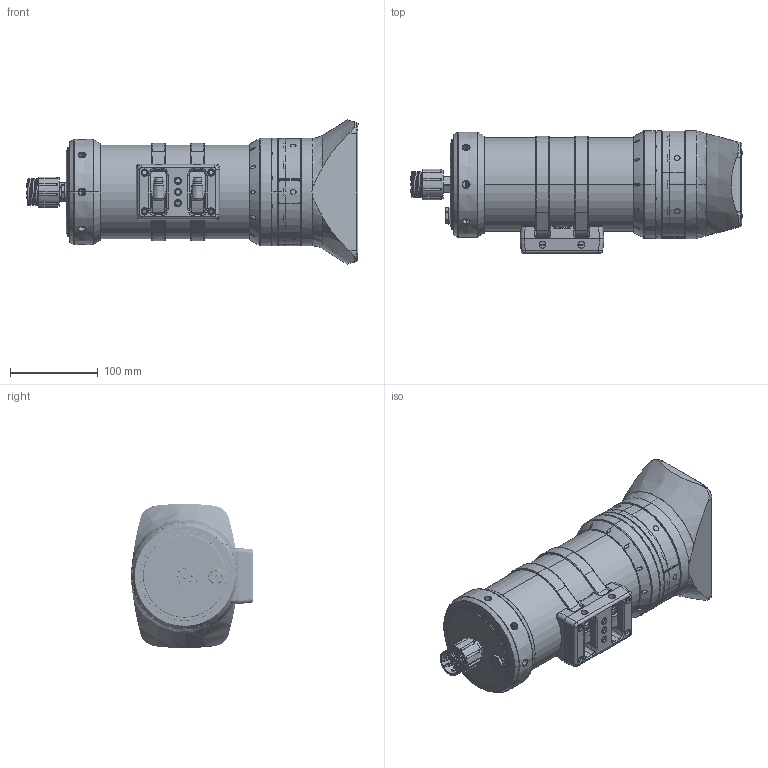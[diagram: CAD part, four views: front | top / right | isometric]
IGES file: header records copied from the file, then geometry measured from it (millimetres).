
Start section: SolidWorks IGES file using analytic representation for surfaces
Global section: file name: S:\3D_Product_Models\Cameras\OSC-E-DBH8M-0A_20200630a.IGS; native system: SolidWorks 2019; preprocessor: SolidWorks 2019; author: Jason.Buss; date: 200630.113326; units: millimetre
Bounding box: 379.36 x 139.95 x 164.69 mm (x, y, z)
Surface area: 269172.4 mm2 (no closed solid volume)
Topology: 0 solids, 0 shells, 1100 faces, 27378 edges, 27339 vertices
Faces by surface type: bspline 598, revolution 502
